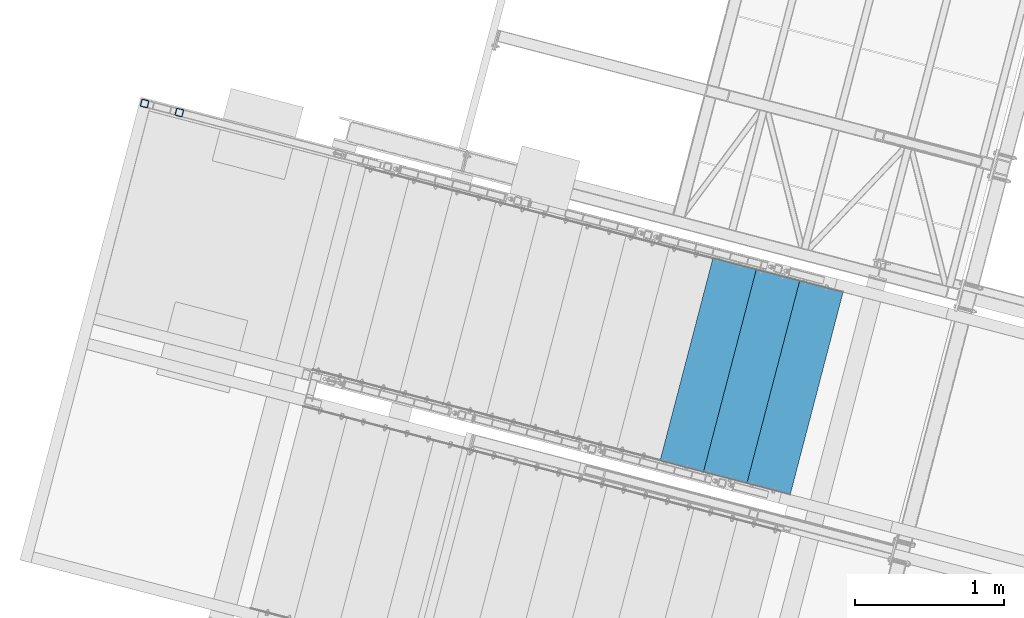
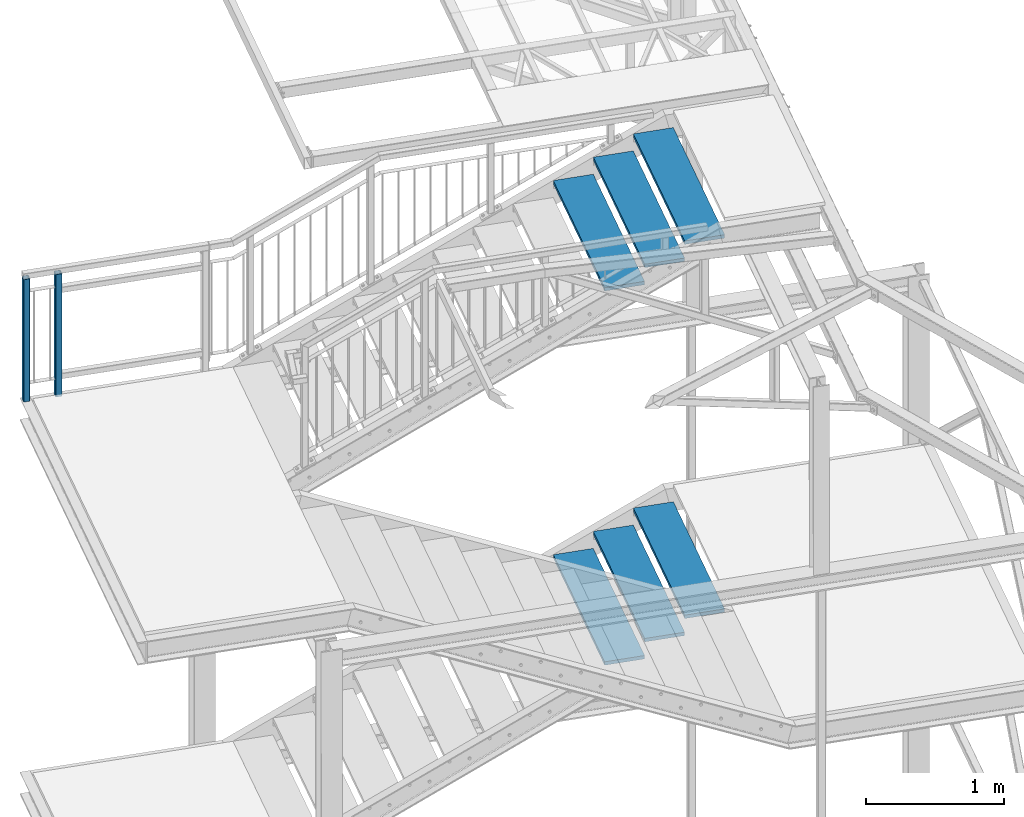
# One storey, part 45 of 169: 8 discrete accessories, 7 elements without a shape of their own.
"""IFC2X3 building model written with IfcOpenShell, lengths in millimetres."""

from ifc_helpers import new_model, si_unit, frame, origin_with_axes, origin_2d_with_axis, place, context, subcontext, project, spatial, polyline, hollow_rectangle, outline, extrude, clip, halfspace, material, type_object, element, aggregate, save


model = new_model("IFC2X3")

# Units and contexts
model_context = context("Model", 3, precision=1e-05, world=origin_with_axes())
body_context = subcontext(model_context, "Body", "Model", "MODEL_VIEW")
ifc_project = project(units=[si_unit("LENGTHUNIT", "METRE", prefix="MILLI"), si_unit("AREAUNIT", "SQUARE_METRE"), si_unit("VOLUMEUNIT", "CUBIC_METRE"), si_unit("MASSUNIT", "GRAM", prefix="KILO"), si_unit("TIMEUNIT", "SECOND"), si_unit("PLANEANGLEUNIT", "RADIAN"), si_unit("SOLIDANGLEUNIT", "STERADIAN"), si_unit("THERMODYNAMICTEMPERATUREUNIT", "DEGREE_CELSIUS"), si_unit("LUMINOUSINTENSITYUNIT", "LUMEN")], contexts=[model_context])

# Site, building, storey
site_placement = place(None, origin_with_axes())
site = spatial("IfcSite", under=ifc_project, at=site_placement, Name="Undefined", CompositionType="ELEMENT")
building_placement = place(site_placement, origin_with_axes())
building = spatial("IfcBuilding", under=site, at=building_placement, Name="Undefined", CompositionType="ELEMENT")
storey_placement = place(building_placement, origin_with_axes())
storey = spatial("IfcBuildingStorey", under=building, at=storey_placement, Name="Undefined", CompositionType="ELEMENT", Elevation=0.0)

# Assembly, discrete accessories
assembly_1_placement = place(storey_placement, origin_with_axes())
assembly_1 = element("IfcElementAssembly", 1, at=assembly_1_placement, inside=storey, Name="Steel Assembly", AssemblyPlace="NOTDEFINED", PredefinedType="RIGID_FRAME")
ifc_material_1 = material(Name="STEEL/S235")
discrete_accessory_type_1 = type_object("IfcDiscreteAccessoryType", Name="STANCHION")
discrete_accessory_1_placement = place(assembly_1_placement, frame((-29045.7451905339, 9192.24467872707, 12349.9945268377), z_axis=(3.4552000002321e-05, 0.000132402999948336, 0.999999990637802), x_axis=(0.252628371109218, 0.967563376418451, -0.000136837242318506)))
discrete_accessory_1 = element("IfcDiscreteAccessory", 2, at=discrete_accessory_1_placement, type_object=discrete_accessory_type_1, material=ifc_material_1, Name="STANCHION", ObjectType="SHS50*3", context=body_context, shape_type="Clipping", body=[
    clip(extrude(hollow_rectangle(XDim=50.0, YDim=50.0, WallThickness=3.0, InnerFilletRadius=3.0, OuterFilletRadius=6.0, at=origin_2d_with_axis()), frame((-1.81898940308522e-12, 1.81898940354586e-12, 1079.99999978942), z_axis=(-2.54700353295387e-10, 0.0, -1.0), x_axis=(0.0, 1.0, 0.0)), (0.0, 0.0, 1.0), 1080.0), halfspace(frame((999.999999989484, -5.99902705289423e-09, 1079.99999955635), z_axis=(-2.54700353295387e-10, 0.0, -1.0), x_axis=(0.0, 1.0, 0.0)), True)),
])
discrete_accessory_2_placement = place(assembly_1_placement, frame((-28813.5299779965, 9131.61386923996, 12349.9945268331), z_axis=(3.4552000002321e-05, 0.000132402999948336, 0.999999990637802), x_axis=(0.252628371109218, 0.967563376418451, -0.000136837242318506)))
discrete_accessory_2 = element("IfcDiscreteAccessory", 3, at=discrete_accessory_2_placement, type_object=discrete_accessory_type_1, material=ifc_material_1, Name="STANCHION", ObjectType="SHS50*3", context=body_context, shape_type="Clipping", body=[
    clip(extrude(hollow_rectangle(XDim=50.0, YDim=50.0, WallThickness=3.0, InnerFilletRadius=3.0, OuterFilletRadius=6.0, at=origin_2d_with_axis()), frame((-1.81898940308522e-12, 1.81898940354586e-12, 1079.99999978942), z_axis=(-2.54700353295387e-10, 0.0, -1.0), x_axis=(0.0, 1.0, 0.0)), (0.0, 0.0, 1.0), 1080.0), halfspace(frame((999.999999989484, -5.99902705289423e-09, 1079.99999955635), z_axis=(-2.54700353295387e-10, 0.0, -1.0), x_axis=(0.0, 1.0, 0.0)), True)),
])
aggregate(assembly_1, [discrete_accessory_1, discrete_accessory_2])

# Assembly, discrete accessory
assembly_2_placement = place(storey_placement, origin_with_axes())
assembly_2 = element("IfcElementAssembly", 4, at=assembly_2_placement, inside=storey, Name="Steel Assembly", AssemblyPlace="NOTDEFINED", PredefinedType="RIGID_FRAME")
ifc_material_2 = material(Name="STEEL/S235JR")
discrete_accessory_type_2 = type_object("IfcDiscreteAccessoryType", Name="STOPNIE")
discrete_accessory_3_placement = place(assembly_2_placement, frame((-24871.5559174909, 6614.3267355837, 13865.0957858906), z_axis=(-2.54700353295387e-10, 0.0, -1.0), x_axis=(0.252562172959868, 0.967580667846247, 0.0)))
discrete_accessory_3 = element("IfcDiscreteAccessory", 5, at=discrete_accessory_3_placement, type_object=discrete_accessory_type_2, material=ifc_material_2, Name="STOPNIE", ObjectType="PL30*300", context=body_context, shape_type="SweptSolid", body=[
    extrude(outline(polyline([(3.45607986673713e-11, -150.00000000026), (-3.09228198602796e-11, 150.000000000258), (1400.00000144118, 150.000000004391), (1400.0000014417, -149.999999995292), (3.45607986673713e-11, -150.00000000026)])), frame((1.81898940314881e-12, 3.72231275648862e-23, -15.0000000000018), z_axis=(0.0, 0.0, 1.0), x_axis=(1.0, 0.0, 0.0)), (0.0, 0.0, 1.0), 30.0),
])
aggregate(assembly_2, [discrete_accessory_3])

assembly_3_placement = place(storey_placement, origin_with_axes())
assembly_3 = element("IfcElementAssembly", 6, at=assembly_3_placement, inside=storey, Name="Steel Assembly", AssemblyPlace="NOTDEFINED", PredefinedType="RIGID_FRAME")
discrete_accessory_4_placement = place(assembly_3_placement, frame((-25161.8301212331, 6690.09538839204, 13715.0957858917), z_axis=(-2.54700353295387e-10, 0.0, -1.0), x_axis=(0.252562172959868, 0.967580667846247, 0.0)))
discrete_accessory_4 = element("IfcDiscreteAccessory", 7, at=discrete_accessory_4_placement, type_object=discrete_accessory_type_2, material=ifc_material_2, Name="STOPNIE", ObjectType="PL30*300", context=body_context, shape_type="SweptSolid", body=[
    extrude(outline(polyline([(3.45607986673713e-11, -150.00000000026), (-3.09228198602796e-11, 150.000000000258), (1400.00000144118, 150.000000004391), (1400.0000014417, -149.999999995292), (3.45607986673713e-11, -150.00000000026)])), frame((1.81898940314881e-12, 3.72231275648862e-23, -15.0000000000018), z_axis=(0.0, 0.0, 1.0), x_axis=(1.0, 0.0, 0.0)), (0.0, 0.0, 1.0), 30.0),
])
aggregate(assembly_3, [discrete_accessory_4])

assembly_4_placement = place(storey_placement, origin_with_axes())
assembly_4 = element("IfcElementAssembly", 8, at=assembly_4_placement, inside=storey, Name="Steel Assembly", AssemblyPlace="NOTDEFINED", PredefinedType="RIGID_FRAME")
discrete_accessory_5_placement = place(assembly_4_placement, frame((-25452.1043249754, 6765.86404120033, 13565.0957858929), z_axis=(-2.54700353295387e-10, 0.0, -1.0), x_axis=(0.252562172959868, 0.967580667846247, 0.0)))
discrete_accessory_5 = element("IfcDiscreteAccessory", 9, at=discrete_accessory_5_placement, type_object=discrete_accessory_type_2, material=ifc_material_2, Name="STOPNIE", ObjectType="PL30*300", context=body_context, shape_type="SweptSolid", body=[
    extrude(outline(polyline([(3.45607986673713e-11, -150.00000000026), (-3.09228198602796e-11, 150.000000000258), (1400.00000144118, 150.000000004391), (1400.0000014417, -149.999999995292), (3.45607986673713e-11, -150.00000000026)])), frame((1.81898940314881e-12, 3.72231275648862e-23, -15.0000000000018), z_axis=(0.0, 0.0, 1.0), x_axis=(1.0, 0.0, 0.0)), (0.0, 0.0, 1.0), 30.0),
])
aggregate(assembly_4, [discrete_accessory_5])

assembly_5_placement = place(storey_placement, origin_with_axes())
assembly_5 = element("IfcElementAssembly", 10, at=assembly_5_placement, inside=storey, Name="Steel Assembly", AssemblyPlace="NOTDEFINED", PredefinedType="RIGID_FRAME")
discrete_accessory_6_placement = place(assembly_5_placement, frame((-24871.669994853, 6613.8898206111, 10565.0958168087), z_axis=(-2.54700353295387e-10, 0.0, -1.0), x_axis=(0.252562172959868, 0.967580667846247, 0.0)))
discrete_accessory_6 = element("IfcDiscreteAccessory", 11, at=discrete_accessory_6_placement, type_object=discrete_accessory_type_2, material=ifc_material_2, Name="STOPNIE", ObjectType="PL30*300", context=body_context, shape_type="SweptSolid", body=[
    extrude(outline(polyline([(3.45607986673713e-11, -150.00000000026), (-3.09228198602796e-11, 150.000000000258), (1400.00000144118, 150.000000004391), (1400.0000014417, -149.999999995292), (3.45607986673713e-11, -150.00000000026)])), frame((1.81898940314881e-12, 3.72231275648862e-23, -15.0000000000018), z_axis=(0.0, 0.0, 1.0), x_axis=(1.0, 0.0, 0.0)), (0.0, 0.0, 1.0), 30.0),
])
aggregate(assembly_5, [discrete_accessory_6])

assembly_6_placement = place(storey_placement, origin_with_axes())
assembly_6 = element("IfcElementAssembly", 12, at=assembly_6_placement, inside=storey, Name="Steel Assembly", AssemblyPlace="NOTDEFINED", PredefinedType="RIGID_FRAME")
discrete_accessory_7_placement = place(assembly_6_placement, frame((-25161.9441985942, 6689.65847342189, 10415.0958168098), z_axis=(-2.54700353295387e-10, 0.0, -1.0), x_axis=(0.252562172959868, 0.967580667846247, 0.0)))
discrete_accessory_7 = element("IfcDiscreteAccessory", 13, at=discrete_accessory_7_placement, type_object=discrete_accessory_type_2, material=ifc_material_2, Name="STOPNIE", ObjectType="PL30*300", context=body_context, shape_type="SweptSolid", body=[
    extrude(outline(polyline([(3.45607986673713e-11, -150.00000000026), (-3.09228198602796e-11, 150.000000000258), (1400.00000144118, 150.000000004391), (1400.0000014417, -149.999999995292), (3.45607986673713e-11, -150.00000000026)])), frame((1.81898940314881e-12, 3.72231275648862e-23, -15.0000000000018), z_axis=(0.0, 0.0, 1.0), x_axis=(1.0, 0.0, 0.0)), (0.0, 0.0, 1.0), 30.0),
])
aggregate(assembly_6, [discrete_accessory_7])

assembly_7_placement = place(storey_placement, origin_with_axes())
assembly_7 = element("IfcElementAssembly", 14, at=assembly_7_placement, inside=storey, Name="Steel Assembly", AssemblyPlace="NOTDEFINED", PredefinedType="RIGID_FRAME")
discrete_accessory_8_placement = place(assembly_7_placement, frame((-25452.2184023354, 6765.42712623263, 10265.095816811), z_axis=(-2.54700353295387e-10, 0.0, -1.0), x_axis=(0.252562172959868, 0.967580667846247, 0.0)))
discrete_accessory_8 = element("IfcDiscreteAccessory", 15, at=discrete_accessory_8_placement, type_object=discrete_accessory_type_2, material=ifc_material_2, Name="STOPNIE", ObjectType="PL30*300", context=body_context, shape_type="SweptSolid", body=[
    extrude(outline(polyline([(3.45607986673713e-11, -150.00000000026), (-3.09228198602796e-11, 150.000000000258), (1400.00000144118, 150.000000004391), (1400.0000014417, -149.999999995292), (3.45607986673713e-11, -150.00000000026)])), frame((1.81898940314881e-12, 3.72231275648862e-23, -15.0000000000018), z_axis=(0.0, 0.0, 1.0), x_axis=(1.0, 0.0, 0.0)), (0.0, 0.0, 1.0), 30.0),
])
aggregate(assembly_7, [discrete_accessory_8])

save(model, "model.ifc")
